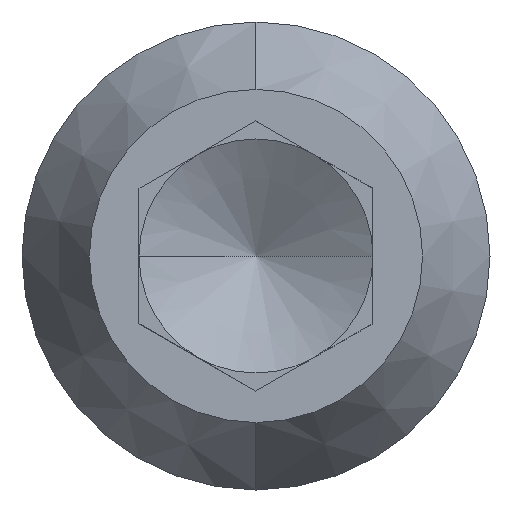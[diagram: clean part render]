
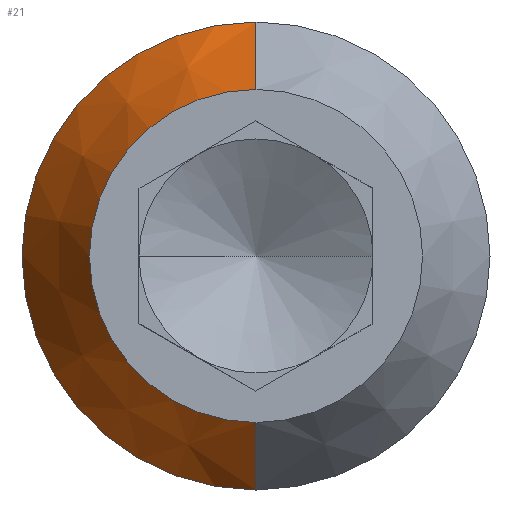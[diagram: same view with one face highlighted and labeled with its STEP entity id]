
A CAD part, left-side view. The second image highlights one B-rep face of the part: STEP entity #21.
In plain terms, the highlighted conical face has half-angle 30 degrees and reference radius 3.175 mm.
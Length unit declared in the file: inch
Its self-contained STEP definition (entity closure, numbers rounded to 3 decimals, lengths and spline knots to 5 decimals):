
#21 = ADVANCED_FACE ( 'NONE', ( #467 ), #466, .T. ) ;
#37 = ORIENTED_EDGE ( 'NONE', *, *, #83, .F. ) ;
#40 = EDGE_LOOP ( 'NONE', ( #37, #78, #87, #71 ) ) ;
#71 = ORIENTED_EDGE ( 'NONE', *, *, #75, .F. ) ;
#72 = VERTEX_POINT ( 'NONE', #566 ) ;
#75 = EDGE_CURVE ( 'NONE', #84, #72, #558, .T. ) ;
#77 = EDGE_CURVE ( 'NONE', #72, #82, #554, .T. ) ;
#78 = ORIENTED_EDGE ( 'NONE', *, *, #81, .T. ) ;
#81 = EDGE_CURVE ( 'NONE', #88, #82, #548, .T. ) ;
#82 = VERTEX_POINT ( 'NONE', #544 ) ;
#83 = EDGE_CURVE ( 'NONE', #88, #84, #543, .T. ) ;
#84 = VERTEX_POINT ( 'NONE', #601 ) ;
#87 = ORIENTED_EDGE ( 'NONE', *, *, #77, .F. ) ;
#88 = VERTEX_POINT ( 'NONE', #596 ) ;
#462 = DIRECTION ( 'NONE',  ( 0., 0., -1. ) ) ;
#463 = DIRECTION ( 'NONE',  ( 1., 0., 0. ) ) ;
#464 = CARTESIAN_POINT ( 'NONE',  ( 0.06235, 0., 0. ) ) ;
#465 = AXIS2_PLACEMENT_3D ( 'NONE', #464, #463, #462 ) ;
#466 = CONICAL_SURFACE ( 'NONE', #465, 0.125, 0.524 ) ;
#467 = FACE_OUTER_BOUND ( 'NONE', #40, .T. ) ;
#539 = DIRECTION ( 'NONE',  ( 0., 0., -1. ) ) ;
#540 = DIRECTION ( 'NONE',  ( -1., 0., 0. ) ) ;
#541 = CARTESIAN_POINT ( 'NONE',  ( 0., 0., 0. ) ) ;
#542 = AXIS2_PLACEMENT_3D ( 'NONE', #541, #540, #539 ) ;
#543 = CIRCLE ( 'NONE', #542, 0.089 ) ;
#544 = CARTESIAN_POINT ( 'NONE',  ( 0.06235, 0., 0.125 ) ) ;
#545 = DIRECTION ( 'NONE',  ( 0.866, 0., 0.5 ) ) ;
#546 = VECTOR ( 'NONE', #545, 39.37008 ) ;
#547 = CARTESIAN_POINT ( 'NONE',  ( 0.06235, 0., 0.125 ) ) ;
#548 = LINE ( 'NONE', #547, #546 ) ;
#550 = DIRECTION ( 'NONE',  ( 0., 0., -1. ) ) ;
#551 = DIRECTION ( 'NONE',  ( 1., 0., 0. ) ) ;
#552 = CARTESIAN_POINT ( 'NONE',  ( 0.06235, 0., 0. ) ) ;
#553 = AXIS2_PLACEMENT_3D ( 'NONE', #552, #551, #550 ) ;
#554 = CIRCLE ( 'NONE', #553, 0.125 ) ;
#555 = DIRECTION ( 'NONE',  ( 0.866, 0., -0.5 ) ) ;
#556 = VECTOR ( 'NONE', #555, 39.37008 ) ;
#557 = CARTESIAN_POINT ( 'NONE',  ( 0.06235, 0., -0.125 ) ) ;
#558 = LINE ( 'NONE', #557, #556 ) ;
#566 = CARTESIAN_POINT ( 'NONE',  ( 0.06235, 0., -0.125 ) ) ;
#596 = CARTESIAN_POINT ( 'NONE',  ( 0., 0., 0.089 ) ) ;
#601 = CARTESIAN_POINT ( 'NONE',  ( 0., 0., -0.089 ) ) ;
